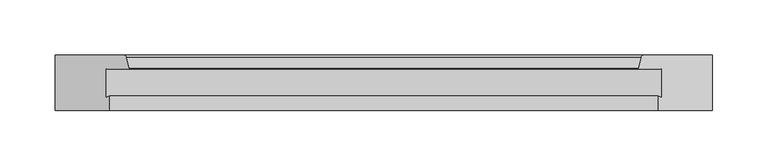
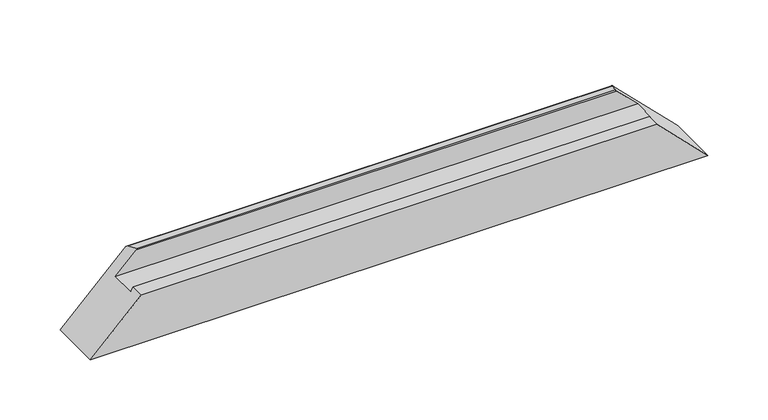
"""IFC4 building model written with IfcOpenShell, lengths in millimetres: proxy geometry, Weiku - Montante - Caixilho 02.2.01.005 : Weiku - Montante - Caixilho 02.2.01.005."""

from ifc_helpers import new_model, si_unit, frame, origin, place, context, project, spatial, ellipse_curve, source, transform, mapped, element, save
from ifc_brep_helpers import plane_surface, cylinder_surface, advanced_brep


def generic_models_083207f7(model_context):
    return source(origin(), model_context, "Body", "AdvancedBrep", [
        advanced_brep(
        [(-251.0, -12.5, 46.0), (251.0, -12.5, 46.0), (230.8909676, -12.5, 66.1090324), (-230.8909676, -12.5, 66.1090324), (-251.0, -37.8314286, 46.0), (251.0, -37.8314286, 46.0), (-248.0, -37.027581, 49.0), (248.0, -37.027581, 49.0), (-248.0, -50.0, 49.0), (248.0, -50.0, 49.0), (297.0, -50.0, 0.0), (-297.0, -50.0, 0.0), (-297.0, 0.0, 0.0), (297.0, 0.0, 0.0), (-235.4997332, 0.0, 61.5002668), (235.4997332, 0.0, 61.5002668), (-230.118227, -11.4929448, 66.881773), (230.118227, -11.4929448, 66.881773), (232.6019557, -2.2235429, 64.3980443), (-232.6019557, -2.2235429, 64.3980443)],
        [
            (0, 1),
            (1, 2),
            (2, 3),
            (3, 0),
            (4, 5),
            (5, 1),
            (0, 4),
            (6, 7),
            (7, 5),
            (4, 6),
            (8, 9),
            (9, 7),
            (6, 8),
            (10, 9),
            (8, 11),
            (11, 10),
            (11, 12),
            (12, 13),
            (13, 10),
            (12, 14),
            (14, 15),
            (15, 13),
            (16, 17),
            (17, 18),
            (18, 19),
            (19, 16),
            (3, 16, ellipse_curve(frame((-230.8909676, -11.7, 66.1090324), z_axis=(-0.7071067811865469, 0.0, 0.7071067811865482), x_axis=(-0.707106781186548, 0.0, -0.7071067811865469)), 1.1313708, 0.8)),
            (19, 14, ellipse_curve(frame((-235.4997332, -3.0, 61.5002668), z_axis=(-0.7071067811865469, 0.0, 0.7071067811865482), x_axis=(-0.707106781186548, 0.0, -0.7071067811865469)), 4.2426407, 3.0)),
            (15, 18, ellipse_curve(frame((235.4997332, -3.0, 61.5002668), z_axis=(0.707106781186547, 0.0, 0.707106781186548), x_axis=(-0.7071067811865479, 0.0, 0.707106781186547)), 4.2426407, 3.0)),
            (17, 2, ellipse_curve(frame((230.8909676, -11.7, 66.1090324), z_axis=(0.707106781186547, 0.0, 0.707106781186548), x_axis=(-0.7071067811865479, 0.0, 0.707106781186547)), 1.1313708, 0.8)),
        ],
        [
            plane_surface(frame((-297.0, -12.5, 66.1090324), z_axis=(0.0, -1.0, 0.0), x_axis=(1.0, 0.0, 0.0))),
            plane_surface(frame((-297.0, -12.5, 46.0), z_axis=(0.0, 0.0, 1.0), x_axis=(1.0, 0.0, 0.0))),
            plane_surface(frame((-297.0, -37.8314286, 46.0), z_axis=(0.0, 0.9659258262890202, -0.2588190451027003), x_axis=(1.0, 0.0, 0.0))),
            plane_surface(frame((-297.0, -37.027581, 49.0), z_axis=(0.0, 0.0, 1.0), x_axis=(1.0, 0.0, 0.0))),
            plane_surface(frame((-297.0, -50.0, 49.0), z_axis=(0.0, -1.0, 0.0), x_axis=(1.0, 0.0, 0.0))),
            plane_surface(frame((-297.0, -50.0, 0.0), z_axis=(0.0, 0.0, -1.0), x_axis=(1.0, 0.0, 0.0))),
            plane_surface(frame((-297.0, 0.0, 0.0), z_axis=(0.0, 1.0, 0.0), x_axis=(1.0, 0.0, 0.0))),
            plane_surface(frame((-297.0, -2.2235429, 64.3980443), z_axis=(0.0, 0.2588190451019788, 0.9659258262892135), x_axis=(1.0, 0.0, 0.0))),
            plane_surface(frame((-367.0, 15.0, -70.0), z_axis=(-0.7071067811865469, 0.0, 0.7071067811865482), x_axis=(0.0, -1.0, 0.0))),
            plane_surface(frame((227.0, 15.0, 70.0), z_axis=(0.707106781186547, 0.0, 0.707106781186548), x_axis=(0.0, -1.0, 0.0))),
            cylinder_surface(frame((-297.0, -11.7, 66.1090324), z_axis=(-1.0, 0.0, 0.0), x_axis=(0.0, -1.0, 0.0)), 0.8),
            cylinder_surface(frame((-297.0, -3.0, 61.5002668), z_axis=(-1.0, 0.0, 0.0), x_axis=(0.0, -1.0, 0.0)), 3.0),
        ],
        [
            (0, [[1, 2, 3, 4]]),
            (1, [[5, 6, -1, 7]]),
            (2, [[8, 9, -5, 10]]),
            (3, [[11, 12, -8, 13]]),
            (4, [[14, -11, 15, 16]]),
            (5, [[17, 18, 19, -16]]),
            (6, [[20, 21, 22, -18]]),
            (7, [[23, 24, 25, 26]]),
            (8, [[27, -26, 28, -20, -17, -15, -13, -10, -7, -4]]),
            (9, [[-6, -9, -12, -14, -19, -22, 29, -24, 30, -2]]),
            (10, [[-3, -30, -23, -27]]),
            (11, [[-25, -29, -21, -28]]),
        ],
    ),
    ])


if __name__ == "__main__":
    model = new_model("IFC4")
    model_context = context("Model", 3, world=origin())
    ifc_project = project(units=[si_unit("LENGTHUNIT", "METRE", prefix="MILLI")], contexts=[model_context])
    site = spatial("IfcSite", under=ifc_project)
    building = spatial("IfcBuilding", under=site)
    placement = place(None, origin())
    generic_models_shape = generic_models_083207f7(model_context)
    element("IfcBuildingElementProxy", 1, Name="Weiku - Montante - Caixilho 02.2.01.005 : Weiku - Montante - Caixilho 02.2.01.005", ObjectType="Weiku - Montante - Caixilho 02.2.01.005 : Weiku - Montante - Caixilho 02.2.01.005", at=placement, inside=building, context=model_context, shape_type="MappedRepresentation", body=[
        mapped(generic_models_shape, transform((0.0, 0.0, 0.0), x_axis=(1.0, 0.0, 0.0), y_axis=(0.0, 1.0, 0.0), z_axis=(0.0, 0.0, 1.0))),
    ])
    save(model, "model.ifc")
